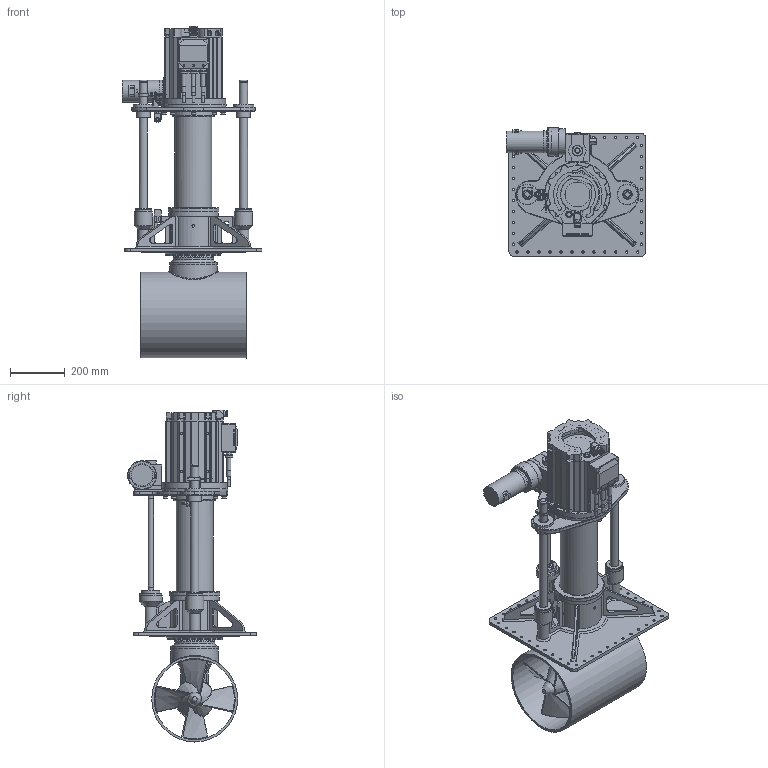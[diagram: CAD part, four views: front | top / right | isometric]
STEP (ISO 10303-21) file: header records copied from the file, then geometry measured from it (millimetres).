
FILE_DESCRIPTION(/* description */ (''),/* implementation_level */ '2;1');
FILE_NAME(/* name */ 'Q:\THRUSTERS\THRUSTER SALES & SUPPORT DOCS\THRUSTER Sales\E-V\E-0300-V\E-0300-V RETRACTED.stp',/* time_stamp */ '2021-02-03T12:38:35+00:00',/* author */ ('Barney.Webborn'),/* organization */ (''),/* preprocessor_version */ 'ST-DEVELOPER v17.2',/* originating_system */ 'Autodesk Inventor 2019',/* authorisation */ '');
FILE_SCHEMA (('AUTOMOTIVE_DESIGN { 1 0 10303 214 3 1 1 }'));
Products named in the file (1): E-0300-V_Shrinkwrap_1
Bounding box: 510.2 x 469.5 x 1211.43 mm (x, y, z)
Volume: 20458549.7 mm3; surface area: 3939870.1 mm2
Topology: 18 solids, 18 shells, 3451 faces, 9267 edges, 6041 vertices
Faces by surface type: plane 1591, cylinder 1181, cone 372, torus 165, bspline 138, sphere 4
Full cylindrical faces by diameter (mm): 1.143 x17, 1.15 x3, 1.35 x3, 1.8 x2, 2 x8, 3.7 x1, 4 x2, 5 x24, 6 x1, 6.4 x3, 8 x5, 8.2 x2, 8.376 x20, 8.5 x62, 8.566 x2, 8.6 x6, 9 x1, 9.398 x3, 9.411 x3, 10 x9, 10.3 x6, 11 x20, 11.938 x3, 12 x1, 12.066 x3, 14 x1, 14.097 x3, 14.098 x3, 14.986 x3, 15 x2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
Entity records: 123860 total; most frequent: CARTESIAN_POINT 32832, ORIENTED_EDGE 18502, DIRECTION 18210, EDGE_CURVE 9251, AXIS2_PLACEMENT_3D 6847, VERTEX_POINT 6041, LINE 4516, VECTOR 4516
